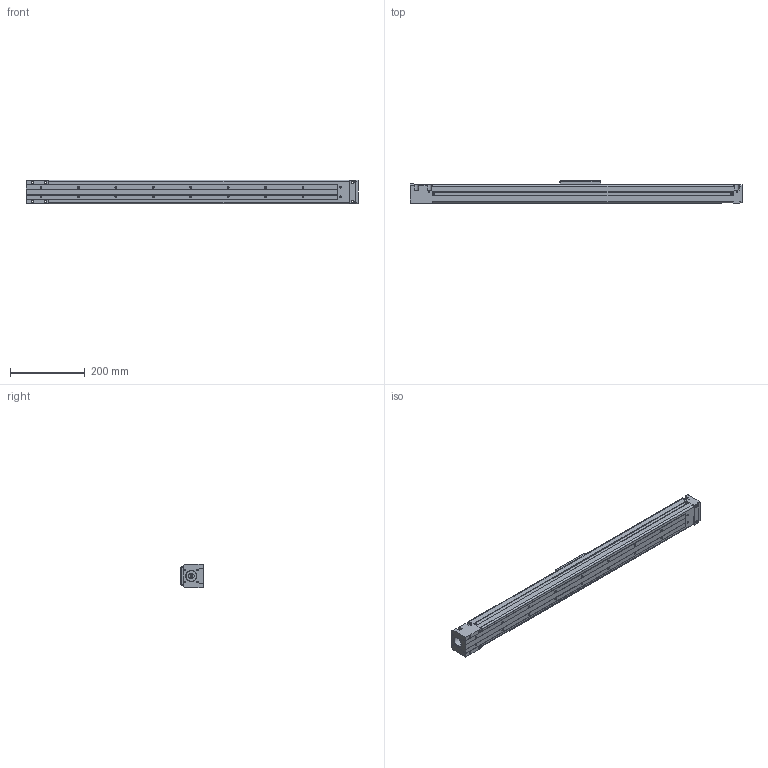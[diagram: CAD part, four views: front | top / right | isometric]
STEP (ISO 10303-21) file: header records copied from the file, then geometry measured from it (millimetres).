
FILE_DESCRIPTION (( 'STEP AP203' ), '1' );
FILE_NAME ('RL-60T-700.STEP', '2010-06-14T17:31:31', ( 'render' ), ( '' ), 'SwSTEP 2.0', 'SolidWorks 2009', '' );
FILE_SCHEMA (( 'CONFIG_CONTROL_DESIGN' ));
Length unit declared in the file: millimetre
Products named in the file (1): RL-60T-700
Bounding box: 887 x 60 x 64 mm (x, y, z)
Volume: 708035.3 mm3; surface area: 448710.6 mm2
Topology: 2 solids, 2 shells, 708 faces, 1865 edges, 1170 vertices
Faces by surface type: plane 429, cylinder 161, cone 110, bspline 8
Entity records: 21919 total; most frequent: CARTESIAN_POINT 4055, ORIENTED_EDGE 3702, DIRECTION 3654, EDGE_CURVE 1851, LINE 1358, VECTOR 1358, VERTEX_POINT 1169, AXIS2_PLACEMENT_3D 1148
